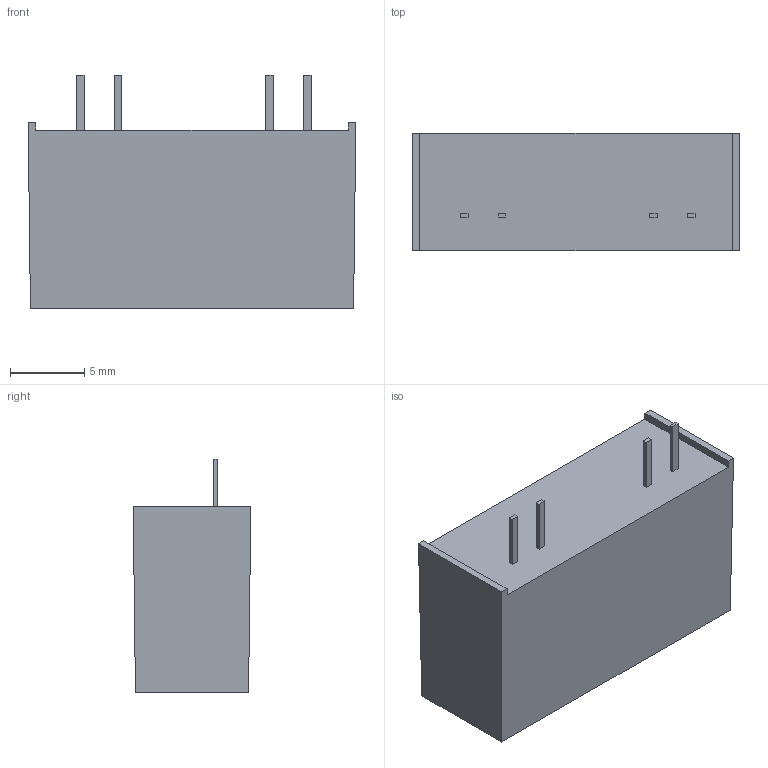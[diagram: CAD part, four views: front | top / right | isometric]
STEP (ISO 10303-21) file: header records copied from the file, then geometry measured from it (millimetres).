
FILE_DESCRIPTION(/* description */ (''),/* implementation_level */ '2;1');
FILE_NAME(/* name */ 'C:\Users\QIU\Desktop\MAU01M 3D.stp',/* time_stamp */ '2016-12-14T16:23:08+08:00',/* author */ ('QIU'),/* organization */ (''),/* preprocessor_version */ 'ST-DEVELOPER v15.2',/* originating_system */ 'Autodesk Inventor 2014',/* authorisation */ '');
FILE_SCHEMA (('AUTOMOTIVE_DESIGN { 1 0 10303 214 3 1 1 }'));
Length unit declared in the file: millimetre
Products named in the file (1): MAU01M 3D(MAU400)
Bounding box: 22 x 7.9 x 15.7 mm (x, y, z)
Volume: 2034.8 mm3; surface area: 1087.2 mm2
Topology: 1 solids, 1 shells, 30 faces, 72 edges, 48 vertices
Faces by surface type: plane 30
Entity records: 884 total; most frequent: CARTESIAN_POINT 151, ORIENTED_EDGE 144, DIRECTION 134, LINE 72, VECTOR 72, EDGE_CURVE 72, VERTEX_POINT 48, EDGE_LOOP 34
